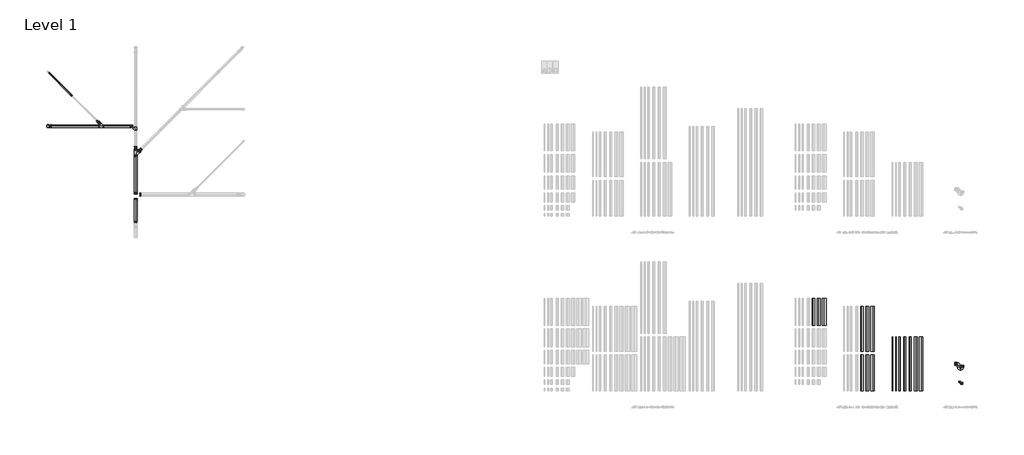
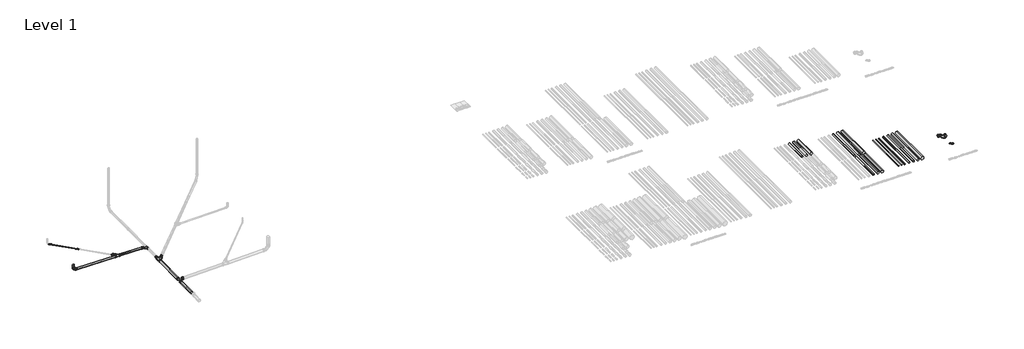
# One storey, part 4 of 13: 54 pipe fittings, 22 pipe segments.
"""IFC4 building model written with IfcOpenShell, lengths in millimetres."""

from ifc_helpers import new_model, si_unit, point, frame, frame_2d, origin, place, context, project, spatial, circle_curve, trimmed, segment, composite_curve, outline, extrude, transform, mapped, element, save
from components import pipe_fitting_1_4404_e5c46f2f, pipe_fitting_1_4301_12527d9e, pipe_fitting_1_4404_370fba09, pipe_fitting_1_4404_a0c9185b, pipe_fitting_1_4404_189c9de8, pipe_fitting_1_4301_4e6f8dee, pipe_fitting_1_4404_a6cf7bca, std_4da191fa, std_1d744fe9, std_806a320d, std_74d0a7f9, std_nested_083b6aa0, std_nested_cbfc2923, std_nested_25d1e1bf, std_nested_0749ac55, std_nested_beb749c0, std_nested_fe5946f3, std_nested_7f6e179d, std_nested_072c2150, std_nested_70f44cd0, std_nested_4988e8d9, std_nested_4f3602ba, std_nested_0eafc151, std_nested_af07ce19, std_nested_c6c84c1b, std_nested_b7669297, std_nested_4a7fe435, std_nested_902816f2

model = new_model("IFC4")

# Units and contexts
model_context = context("Model", 3, world=origin())
ifc_project = project(units=[si_unit("LENGTHUNIT", "METRE", prefix="MILLI")], contexts=[model_context])

# Site, building, storey
site = spatial("IfcSite", under=ifc_project)
building = spatial("IfcBuilding", under=site)
storey = spatial("IfcBuildingStorey", under=building, Name="Level 1", Elevation=0.0)

# Pipe fittings
placement = place(None, origin())
pipe_fitting_1_4404_shape = pipe_fitting_1_4404_e5c46f2f(model_context)
element("IfcPipeFitting", 1, ObjectType="PIF_ST_UN_ACO pipe double bend_ACO : 1.4404", at=placement, inside=storey, context=model_context, shape_type="MappedRepresentation", body=[
    mapped(pipe_fitting_1_4404_shape, transform((-29368.5517039, 4998.4437608, 143.0504722), x_axis=(0.0, 0.0, -1.0), y_axis=(1.0, 0.0, 0.0), z_axis=(0.0, -1.0, 0.0))),
])
pipe_fitting_1_4301_shape = pipe_fitting_1_4301_12527d9e(model_context)
element("IfcPipeFitting", 2, ObjectType="PIF_ST_UN_ACO pipe p-trap_ACO : 1.4404", at=placement, inside=storey, context=model_context, shape_type="MappedRepresentation", body=[
    mapped(pipe_fitting_1_4301_shape, transform((21621.7461061, -9269.2114353, 0.0), x_axis=(1.0, 0.0, 0.0), y_axis=(0.0, 1.0, 0.0), z_axis=(0.0, 0.0, 1.0))),
])
pipe_fitting_1_4404_2_shape = pipe_fitting_1_4404_370fba09(model_context)
element("IfcPipeFitting", 3, ObjectType="PIF_ST_UN_ACO pipe multibranch_ACO : 1.4404", at=placement, inside=storey, context=model_context, shape_type="MappedRepresentation", body=[
    mapped(pipe_fitting_1_4404_2_shape, transform((-26321.0506477, 4998.4437608, 97.3379564), x_axis=(-0.9998875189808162, 0.0, 0.014998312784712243), y_axis=(9.3175288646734e-05, 0.999980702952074, 0.006211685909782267), z_axis=(-0.014998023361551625, 0.0062123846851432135, -0.9998682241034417))),
])
element("IfcPipeFitting", 4, ObjectType="PIF_ST_UN_ACO pipe multibranch_ACO : 1.4404", at=placement, inside=storey, context=model_context, shape_type="MappedRepresentation", body=[
    mapped(pipe_fitting_1_4404_2_shape, transform((-24468.5517039, 4800.4745753, 67.8094351), x_axis=(0.0, 0.9999613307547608, 0.008794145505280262), y_axis=(-0.9998875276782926, -0.00013189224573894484, 0.014997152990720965), z_axis=(0.014997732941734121, -0.008793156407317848, 0.999848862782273))),
])
pipe_fitting_1_4404_3_shape = pipe_fitting_1_4404_a0c9185b(model_context)
element("IfcPipeFitting", 5, ObjectType="PIF_ST_UN_ACO pipe multibranch_ACO : 1.4404", at=placement, inside=storey, context=model_context, shape_type="MappedRepresentation", body=[
    mapped(pipe_fitting_1_4404_3_shape, transform((-24468.5517039, 3423.4023035, 55.6987928), x_axis=(0.0, 0.9999613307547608, 0.008794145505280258), y_axis=(0.9999229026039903, -0.000109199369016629, 0.012416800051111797), z_axis=(0.01241728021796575, 0.008793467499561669, -0.999884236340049))),
])
pipe_fitting_1_4404_4_shape = pipe_fitting_1_4404_189c9de8(model_context)
element("IfcPipeFitting", 6, ObjectType="PIF_ST_UN_ACO pipe multireducer_ACO : 1.4404", at=placement, inside=storey, context=model_context, shape_type="MappedRepresentation", body=[
    mapped(pipe_fitting_1_4404_4_shape, transform((-24468.5517039, 3716.3909734, 58.2754775), x_axis=(0.0, 0.9999613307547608, 0.008794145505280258), y_axis=(-0.9999229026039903, 0.00010919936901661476, -0.01241680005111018), z_axis=(-0.012417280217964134, -0.008793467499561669, 0.999884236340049))),
])
pipe_fitting_1_4301_2_shape = pipe_fitting_1_4301_4e6f8dee(model_context)
element("IfcPipeFitting", 7, ObjectType="PIF_ST_UN_ACO pipe p-trap_ACO : 1.4404", at=placement, inside=storey, context=model_context, shape_type="MappedRepresentation", body=[
    mapped(pipe_fitting_1_4301_2_shape, transform((21621.7461061, -8269.2114353, 0.0), x_axis=(1.0, 0.0, 0.0), y_axis=(0.0, 1.0, 0.0), z_axis=(0.0, 0.0, 1.0))),
])
pipe_fitting_1_4404_5_shape = pipe_fitting_1_4404_a6cf7bca(model_context)
element("IfcPipeFitting", 8, ObjectType="PIF_ST_UN_ACO pipe straight coupling_ACO : 1.4404", at=placement, inside=storey, context=model_context, shape_type="MappedRepresentation", body=[
    mapped(pipe_fitting_1_4404_5_shape, transform((-28056.0900887, 6733.2635608, 109.1390415), x_axis=(0.7070272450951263, -0.7070272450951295, -0.01499831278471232), y_axis=(0.014998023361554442, -0.006212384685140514, 0.9998682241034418), z_axis=(-0.7070272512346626, -0.7071590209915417, 0.0062116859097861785))),
])
std_shape = std_4da191fa(model_context)
element("IfcPipeFitting", 9, ObjectType="ZZZ_do not use_PIF_ST_UN_ACO pipe increaser coupling_ACO : std", at=placement, inside=storey, context=model_context, shape_type="MappedRepresentation", body=[
    mapped(std_shape, transform((-26485.4344822, 5162.8275953, 100.8250641), x_axis=(-0.7070272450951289, 0.7070272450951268, 0.01499831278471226), y_axis=(0.7070272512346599, 0.7071590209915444, -0.0062116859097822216), z_axis=(-0.014998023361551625, 0.0062123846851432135, -0.9998682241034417))),
])
std_2_shape = std_1d744fe9(model_context)
element("IfcPipeFitting", 10, ObjectType="ZZZ_do not use_PIF_ST_UN_ACO pipe increaser coupling_ACO : std", at=placement, inside=storey, context=model_context, shape_type="MappedRepresentation", body=[
    mapped(std_2_shape, transform((-26568.5101835, 5245.9032966, 102.5873658), x_axis=(-0.7070272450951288, 0.7070272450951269, 0.01499831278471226), y_axis=(0.70702725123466, 0.7071590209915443, -0.006211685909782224), z_axis=(-0.014998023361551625, 0.0062123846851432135, -0.9998682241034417))),
])
std_3_shape = std_806a320d(model_context)
element("IfcPipeFitting", 11, ObjectType="ZZZ_do not use_PIF_ST_UN_ACO pipe increaser coupling_ACO : std", at=placement, inside=storey, context=model_context, shape_type="MappedRepresentation", body=[
    mapped(std_3_shape, transform((-24255.0294758, 3636.9245315, 60.2282833), x_axis=(0.7070272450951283, 0.7070272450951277, 0.014998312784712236), y_axis=(0.7070772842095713, -0.7071316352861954, 0.0025621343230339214), z_axis=(0.012417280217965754, 0.00879346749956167, -0.9998842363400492))),
])
std_4_shape = std_74d0a7f9(model_context)
element("IfcPipeFitting", 12, ObjectType="ZZZ_do not use_PIF_ST_UN_ACO pipe increaser coupling_ACO : std", at=placement, inside=storey, context=model_context, shape_type="MappedRepresentation", body=[
    mapped(std_4_shape, transform((-24468.5517039, 3716.3909734, 58.2754775), x_axis=(0.0, 0.9999613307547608, 0.008794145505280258), y_axis=(-0.9999229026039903, 0.00010919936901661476, -0.01241680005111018), z_axis=(-0.012417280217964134, -0.008793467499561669, 0.999884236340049))),
])
std_nested_shape = std_nested_083b6aa0(model_context)
element("IfcPipeFitting", 13, ObjectType="ZZZ_do not use_PIF_ST_UN_ACO pipe bend_ACO : std (nested)", at=placement, inside=storey, context=model_context, shape_type="MappedRepresentation", body=[
    mapped(std_nested_shape, transform((-29256.2662569, 4998.4437608, 141.3661905), x_axis=(0.7017840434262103, 0.0, -0.7123897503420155), y_axis=(0.7123897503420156, 0.0, 0.7017840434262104), z_axis=(0.0, -1.0000000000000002, 0.0))),
])
element("IfcPipeFitting", 14, ObjectType="ZZZ_do not use_PIF_ST_UN_ACO pipe bend_ACO : std (nested)", at=placement, inside=storey, context=model_context, shape_type="MappedRepresentation", body=[
    mapped(std_nested_shape, transform((-29368.5517039, 4998.4437608, 255.3485506), x_axis=(0.0, 0.0, -1.0), y_axis=(1.0, 0.0, 0.0), z_axis=(0.0, -1.0, 0.0))),
])
std_nested_2_shape = std_nested_cbfc2923(model_context)
element("IfcPipeFitting", 15, ObjectType="ZZZ_do not use_PIF_ST_UN_ACO pipe bend_ACO : std (nested)", at=placement, inside=storey, context=model_context, shape_type="MappedRepresentation", body=[
    mapped(std_nested_2_shape, transform((-24666.5062781, 4998.4437625, 72.5197908), x_axis=(-0.7069806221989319, 0.7070328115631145, 0.0168226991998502), y_axis=(-0.7070738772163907, -0.7071260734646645, 0.0043872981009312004), z_axis=(0.014997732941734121, -0.008793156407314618, 0.999848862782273))),
])
std_nested_3_shape = std_nested_25d1e1bf(model_context)
element("IfcPipeFitting", 16, ObjectType="ZZZ_do not use_PIF_ST_UN_ACO pipe branch_ACO : std (nested)", at=placement, inside=storey, context=model_context, shape_type="MappedRepresentation", body=[
    mapped(std_nested_3_shape, transform((-26321.0506477, 4998.4437608, 97.3379564), x_axis=(-0.9998875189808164, 0.0, 0.014998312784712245), y_axis=(9.3175288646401e-05, 0.9999807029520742, 0.006211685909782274), z_axis=(-0.014998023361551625, 0.0062123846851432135, -0.9998682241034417))),
])
std_nested_4_shape = std_nested_0749ac55(model_context)
element("IfcPipeFitting", 17, ObjectType="ZZZ_do not use_PIF_ST_UN_ACO pipe branch_ACO : std (nested)", at=placement, inside=storey, context=model_context, shape_type="MappedRepresentation", body=[
    mapped(std_nested_4_shape, transform((-24468.5517039, 4800.4745753, 67.8094351), x_axis=(0.0, 0.999961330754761, 0.008794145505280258), y_axis=(-0.9998875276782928, -0.0001318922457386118, 0.014997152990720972), z_axis=(0.014997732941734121, -0.008793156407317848, 0.999848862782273))),
])
std_nested_5_shape = std_nested_beb749c0(model_context)
element("IfcPipeFitting", 18, ObjectType="ZZZ_do not use_PIF_ST_UN_ACO pipe branch_ACO : std (nested)", at=placement, inside=storey, context=model_context, shape_type="MappedRepresentation", body=[
    mapped(std_nested_5_shape, transform((-24468.5517039, 3423.4023035, 55.6987928), x_axis=(0.0, 0.999961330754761, 0.008794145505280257), y_axis=(0.9999229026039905, -0.00010919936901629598, 0.012416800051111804), z_axis=(0.01241728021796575, 0.008793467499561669, -0.999884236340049))),
])
std_nested_6_shape = std_nested_fe5946f3(model_context)
element("IfcPipeFitting", 19, ObjectType="ZZZ_do not use_PIF_ST_UN_ACO pipe multireducer_ACO : std (nested)", at=placement, inside=storey, context=model_context, shape_type="MappedRepresentation", body=[
    mapped(std_nested_6_shape, transform((-26524.3209807, 5201.7140937, 101.6499713), x_axis=(-0.7070272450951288, 0.7070272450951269, 0.01499831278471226), y_axis=(0.70702725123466, 0.7071590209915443, -0.006211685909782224), z_axis=(-0.014998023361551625, 0.0062123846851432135, -0.9998682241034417))),
])
element("IfcPipeFitting", 20, ObjectType="ZZZ_do not use_PIF_ST_UN_ACO pipe multireducer_ACO : std (nested)", at=placement, inside=storey, context=model_context, shape_type="MappedRepresentation", body=[
    mapped(pipe_fitting_1_4404_4_shape, transform((-24255.0294758, 3636.9245315, 60.2282833), x_axis=(0.7070272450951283, 0.7070272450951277, 0.014998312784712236), y_axis=(0.7070772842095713, -0.7071316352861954, 0.0025621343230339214), z_axis=(0.012417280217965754, 0.00879346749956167, -0.9998842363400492))),
])
std_nested_7_shape = std_nested_7f6e179d(model_context)
element("IfcPipeFitting", 21, ObjectType="ZZZ_do not use_PIF_ST_UN_ACO pipe socket_ACO : std (nested)", at=placement, inside=storey, context=model_context, shape_type="MappedRepresentation", body=[
    mapped(std_nested_7_shape, transform((21434.7461061, -9269.2114353, 0.0), x_axis=(-1.0, 0.0, 0.0), y_axis=(0.0, 1.0, 0.0), z_axis=(0.0, 0.0, -1.0))),
])
element("IfcPipeFitting", 22, ObjectType="ZZZ_do not use_PIF_ST_UN_ACO pipe socket_ACO : std (nested)", at=placement, inside=storey, context=model_context, shape_type="MappedRepresentation", body=[
    mapped(std_nested_7_shape, transform((-29282.1495171, 7959.3229892, 135.1476896), x_axis=(0.7070272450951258, -0.70702724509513, -0.014998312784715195), y_axis=(0.010605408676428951, -0.010605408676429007, 0.9998875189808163), z_axis=(-0.7071067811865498, -0.7071067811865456, 0.0))),
])
std_nested_8_shape = std_nested_072c2150(model_context)
element("IfcPipeFitting", 23, ObjectType="ZZZ_do not use_PIF_ST_UN_ACO pipe socket_ACO : std (nested)", at=placement, inside=storey, context=model_context, shape_type="MappedRepresentation", body=[
    mapped(std_nested_8_shape, transform((21621.7461061, -9350.2114353, 0.0), x_axis=(0.0, 1.0, 0.0), y_axis=(1.0, 0.0, 0.0), z_axis=(0.0, 0.0, -1.0))),
])
element("IfcPipeFitting", 24, ObjectType="ZZZ_do not use_PIF_ST_UN_ACO pipe socket_ACO : std (nested)", at=placement, inside=storey, context=model_context, shape_type="MappedRepresentation", body=[
    mapped(std_nested_8_shape, transform((-26607.7716326, 5284.9451047, 78.4155674), x_axis=(-0.7070272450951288, 0.7070272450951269, 0.01499831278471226), y_axis=(0.70702725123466, 0.7071590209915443, -0.006211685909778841), z_axis=(-0.014998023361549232, 0.0062123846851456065, -0.9998682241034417))),
])
element("IfcPipeFitting", 25, ObjectType="ZZZ_do not use_PIF_ST_UN_ACO pipe socket_ACO : std (nested)", at=placement, inside=storey, context=model_context, shape_type="MappedRepresentation", body=[
    mapped(std_nested_8_shape, transform((-28051.4237088, 6728.5971809, 109.0400526), x_axis=(0.7070272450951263, -0.7070272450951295, -0.01499831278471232), y_axis=(-0.014998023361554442, 0.006212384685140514, -0.9998682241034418), z_axis=(0.7070272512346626, 0.7071590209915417, -0.0062116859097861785))),
])
element("IfcPipeFitting", 26, ObjectType="ZZZ_do not use_PIF_ST_UN_ACO pipe socket_ACO : std (nested)", at=placement, inside=storey, context=model_context, shape_type="MappedRepresentation", body=[
    mapped(std_nested_8_shape, transform((-28060.7564685, 6737.9299406, 109.2380304), x_axis=(-0.7070272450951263, 0.7070272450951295, 0.01499831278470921), y_axis=(0.014998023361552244, -0.006212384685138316, 0.9998682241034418), z_axis=(0.7070272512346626, 0.7071590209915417, -0.0062116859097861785))),
])
std_nested_9_shape = std_nested_70f44cd0(model_context)
element("IfcPipeFitting", 27, ObjectType="ZZZ_do not use_PIF_ST_UN_ACO pipe socket_ACO : std (nested)", at=placement, inside=storey, context=model_context, shape_type="MappedRepresentation", body=[
    mapped(std_nested_9_shape, transform((21217.7461061, -8269.2114353, 0.0), x_axis=(-1.0, 0.0, 0.0), y_axis=(0.0, 1.0, 0.0), z_axis=(0.0, 0.0, -1.0))),
])
std_nested_10_shape = std_nested_4988e8d9(model_context)
element("IfcPipeFitting", 28, ObjectType="ZZZ_do not use_PIF_ST_UN_ACO pipe socket_ACO : std (nested)", at=placement, inside=storey, context=model_context, shape_type="MappedRepresentation", body=[
    mapped(std_nested_10_shape, transform((21621.7461061, -8426.2114353, 0.0), x_axis=(0.0, 1.0, 0.0), y_axis=(1.0, 0.0, 0.0), z_axis=(0.0, 0.0, -1.0))),
])
std_nested_11_shape = std_nested_4f3602ba(model_context)
element("IfcPipeFitting", 29, ObjectType="ZZZ_do not use_PIF_ST_UN_ACO pipe socket_ACO : std (nested)", at=placement, inside=storey, context=model_context, shape_type="MappedRepresentation", body=[
    mapped(std_nested_11_shape, transform((-29146.2786298, 4998.4437608, 139.7163761), x_axis=(0.9998875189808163, 0.0, -0.014998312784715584), y_axis=(0.01499831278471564, 0.0, 0.9998875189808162), z_axis=(0.0, -1.0000000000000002, 0.0))),
])
element("IfcPipeFitting", 30, ObjectType="ZZZ_do not use_PIF_ST_UN_ACO pipe socket_ACO : std (nested)", at=placement, inside=storey, context=model_context, shape_type="MappedRepresentation", body=[
    mapped(std_nested_11_shape, transform((-26218.0622332, 4998.4437608, 95.7931302), x_axis=(0.9998875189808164, 0.0, -0.014998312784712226), y_axis=(-9.317528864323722e-05, -0.9999807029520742, -0.006211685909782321), z_axis=(-0.014998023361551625, 0.0062123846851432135, -0.9998682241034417))),
])
std_nested_12_shape = std_nested_0eafc151(model_context)
element("IfcPipeFitting", 31, ObjectType="ZZZ_do not use_PIF_ST_UN_ACO pipe socket_ACO : std (nested)", at=placement, inside=storey, context=model_context, shape_type="MappedRepresentation", body=[
    mapped(std_nested_12_shape, transform((-29291.3554591, 4998.4437608, 176.985678), x_axis=(-0.7017840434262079, 0.0, 0.7123897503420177), y_axis=(-0.7123897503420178, 0.0, -0.701784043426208), z_axis=(0.0, -1.0000000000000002, 0.0))),
])
element("IfcPipeFitting", 32, ObjectType="ZZZ_do not use_PIF_ST_UN_ACO pipe socket_ACO : std (nested)", at=placement, inside=storey, context=model_context, shape_type="MappedRepresentation", body=[
    mapped(std_nested_12_shape, transform((-29368.5517039, 4998.4437608, 305.3485506), x_axis=(0.0, 0.0, 1.0), y_axis=(-1.0, 0.0, 0.0), z_axis=(0.0, -1.0, 0.0))),
])
std_nested_13_shape = std_nested_af07ce19(model_context)
element("IfcPipeFitting", 33, ObjectType="ZZZ_do not use_PIF_ST_UN_ACO pipe socket_ACO : std (nested)", at=placement, inside=storey, context=model_context, shape_type="MappedRepresentation", body=[
    mapped(std_nested_13_shape, transform((-26529.623685, 5207.0167981, 101.7624586), x_axis=(-0.7070272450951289, 0.7070272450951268, 0.01499831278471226), y_axis=(0.7070272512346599, 0.7071590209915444, -0.006211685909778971), z_axis=(-0.014998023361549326, 0.006212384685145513, -0.9998682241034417))),
])
element("IfcPipeFitting", 34, ObjectType="ZZZ_do not use_PIF_ST_UN_ACO pipe socket_ACO : std (nested)", at=placement, inside=storey, context=model_context, shape_type="MappedRepresentation", body=[
    mapped(std_nested_12_shape, transform((-26491.0315259, 4998.4437608, 99.8876695), x_axis=(-0.9998875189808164, 0.0, 0.014998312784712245), y_axis=(9.3175288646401e-05, 0.9999807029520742, 0.006211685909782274), z_axis=(-0.014998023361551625, 0.0062123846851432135, -0.9998682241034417))),
])
element("IfcPipeFitting", 35, ObjectType="ZZZ_do not use_PIF_ST_UN_ACO pipe socket_ACO : std (nested)", at=placement, inside=storey, context=model_context, shape_type="MappedRepresentation", body=[
    mapped(std_nested_12_shape, transform((-26441.2452794, 5118.6383924, 99.8876695), x_axis=(-0.7070272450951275, 0.7070272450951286, 0.014998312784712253), y_axis=(0.7070272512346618, 0.707159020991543, -0.006211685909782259), z_axis=(-0.014998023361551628, 0.006212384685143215, -0.9998682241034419))),
])
element("IfcPipeFitting", 36, ObjectType="ZZZ_do not use_PIF_ST_UN_ACO pipe socket_ACO : std (nested)", at=placement, inside=storey, context=model_context, shape_type="MappedRepresentation", body=[
    mapped(std_nested_12_shape, transform((-24716.500654, 4998.4437625, 73.2697065), x_axis=(-0.9998875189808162, 0.0, 0.014998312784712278), y_axis=(-0.000131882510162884, -0.9999613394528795, -0.00879216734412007), z_axis=(0.014997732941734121, -0.008793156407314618, 0.999848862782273))),
])
element("IfcPipeFitting", 37, ObjectType="ZZZ_do not use_PIF_ST_UN_ACO pipe socket_ACO : std (nested)", at=placement, inside=storey, context=model_context, shape_type="MappedRepresentation", body=[
    mapped(std_nested_12_shape, transform((-24468.5517039, 3796.3878799, 58.9790091), x_axis=(0.0, 0.9999613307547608, 0.008794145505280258), y_axis=(-0.9999229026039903, 0.00010919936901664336, -0.012416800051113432), z_axis=(-0.012417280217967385, -0.008793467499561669, 0.999884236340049))),
])
element("IfcPipeFitting", 38, ObjectType="ZZZ_do not use_PIF_ST_UN_ACO pipe socket_ACO : std (nested)", at=placement, inside=storey, context=model_context, shape_type="MappedRepresentation", body=[
    mapped(std_nested_10_shape, transform((-24468.5517039, 1229.5443159, 36.4049404), x_axis=(0.0, 0.9999613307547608, 0.00879414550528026), y_axis=(0.9998875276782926, -0.0001318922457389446, 0.014997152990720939), z_axis=(0.014997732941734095, 0.008793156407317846, -0.999848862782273))),
])
element("IfcPipeFitting", 39, ObjectType="ZZZ_do not use_PIF_ST_UN_ACO pipe socket_ACO : std (nested)", at=placement, inside=storey, context=model_context, shape_type="MappedRepresentation", body=[
    mapped(std_nested_10_shape, transform((-24245.0768434, 1191.2457969, 39.4202475), x_axis=(0.9998875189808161, 0.0, 0.014998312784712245), y_axis=(0.00013188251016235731, -0.9999613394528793, -0.008792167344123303), z_axis=(0.014997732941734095, 0.008793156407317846, -0.999848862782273))),
])
element("IfcPipeFitting", 40, ObjectType="ZZZ_do not use_PIF_ST_UN_ACO pipe socket_ACO : std (nested)", at=placement, inside=storey, context=model_context, shape_type="MappedRepresentation", body=[
    mapped(std_nested_9_shape, transform((-24468.5517039, 897.557154, 33.4852841), x_axis=(0.0, -0.9999613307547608, -0.008794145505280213), y_axis=(-0.9998875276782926, 0.0001318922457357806, -0.014997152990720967), z_axis=(0.014997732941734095, 0.008793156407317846, -0.999848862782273))),
])
element("IfcPipeFitting", 41, ObjectType="ZZZ_do not use_PIF_ST_UN_ACO pipe socket_ACO : std (nested)", at=placement, inside=storey, context=model_context, shape_type="MappedRepresentation", body=[
    mapped(std_nested_10_shape, transform((-24468.5517039, 3636.3940669, 57.5719458), x_axis=(0.0, 0.999961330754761, 0.008794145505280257), y_axis=(0.9999229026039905, -0.00010919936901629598, 0.012416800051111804), z_axis=(0.01241728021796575, 0.008793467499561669, -0.999884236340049))),
])
element("IfcPipeFitting", 42, ObjectType="ZZZ_do not use_PIF_ST_UN_ACO pipe socket_ACO : std (nested)", at=placement, inside=storey, context=model_context, shape_type="MappedRepresentation", body=[
    mapped(std_nested_10_shape, transform((-24311.5916555, 3580.3623519, 59.0284183), x_axis=(0.7070272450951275, 0.7070272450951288, 0.014998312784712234), y_axis=(0.7070772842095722, -0.7071316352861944, 0.0025621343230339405), z_axis=(0.01241728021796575, 0.008793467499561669, -0.999884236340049))),
])
element("IfcPipeFitting", 43, ObjectType="ZZZ_do not use_PIF_ST_UN_ACO pipe socket_ACO : std (nested)", at=placement, inside=storey, context=model_context, shape_type="MappedRepresentation", body=[
    mapped(std_nested_9_shape, transform((-24468.5517039, 3304.4069051, 54.6522895), x_axis=(0.0, -0.999961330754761, -0.008794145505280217), y_axis=(-0.9999229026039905, 0.00010919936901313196, -0.012416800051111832), z_axis=(0.01241728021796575, 0.008793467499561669, -0.999884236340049))),
])
element("IfcPipeFitting", 44, ObjectType="ZZZ_do not use_PIF_ST_UN_ACO pipe socket_ACO : std (nested)", at=placement, inside=storey, context=model_context, shape_type="MappedRepresentation", body=[
    mapped(std_nested_13_shape, transform((-24198.7404764, 3693.2932548, 83.4256015), x_axis=(0.7070272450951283, 0.7070272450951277, 0.014998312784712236), y_axis=(0.7070772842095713, -0.7071316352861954, 0.002562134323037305), z_axis=(0.012417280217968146, 0.008793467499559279, -0.9998842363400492))),
])
std_nested_14_shape = std_nested_c6c84c1b(model_context)
element("IfcPipeFitting", 45, ObjectType="ZZZ_do not use_PIF_ST_UN_ACO pipe socket clamp_ACO : std (nested)", at=placement, inside=storey, context=model_context, shape_type="MappedRepresentation", body=[
    mapped(std_nested_14_shape, transform((-24169.0453321, 3722.9883991, 84.0555306), x_axis=(0.7070272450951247, 0.707027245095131, 0.014998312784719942), y_axis=(0.012417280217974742, 0.008793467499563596, -0.9998842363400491), z_axis=(-0.7070772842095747, 0.7071316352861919, -0.0025621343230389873))),
])
std_nested_15_shape = std_nested_b7669297(model_context)
element("IfcPipeFitting", 46, ObjectType="ZZZ_do not use_PIF_ST_UN_ACO pipe socket clamp_ACO : std (nested)", at=placement, inside=storey, context=model_context, shape_type="MappedRepresentation", body=[
    mapped(std_nested_15_shape, transform((-24468.5517039, 3689.3920175, 58.0380355), x_axis=(0.0, 0.9999613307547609, 0.008794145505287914), y_axis=(0.01241728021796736, 0.008793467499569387, -0.9998842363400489), z_axis=(-0.9999229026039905, 0.00010919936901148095, -0.012416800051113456))),
])
element("IfcPipeFitting", 47, ObjectType="ZZZ_do not use_PIF_ST_UN_ACO pipe socket clamp_ACO : std (nested)", at=placement, inside=storey, context=model_context, shape_type="MappedRepresentation", body=[
    mapped(std_nested_15_shape, transform((-24274.1192115, 3617.8347959, 59.8233288), x_axis=(0.7070272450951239, 0.7070272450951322, 0.01499831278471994), y_axis=(0.012417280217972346, 0.008793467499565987, -0.9998842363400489), z_axis=(-0.7070772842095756, 0.7071316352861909, -0.0025621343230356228))),
])
element("IfcPipeFitting", 48, ObjectType="ZZZ_do not use_PIF_ST_UN_ACO pipe socket clamp_ACO : std (nested)", at=placement, inside=storey, context=model_context, shape_type="MappedRepresentation", body=[
    mapped(std_nested_15_shape, transform((-24468.5517039, 3357.4048557, 55.1183792), x_axis=(0.0, 0.9999613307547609, 0.008794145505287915), y_axis=(0.01241728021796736, 0.008793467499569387, -0.9998842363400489), z_axis=(-0.9999229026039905, 0.0001091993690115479, -0.012416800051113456))),
])
std_nested_16_shape = std_nested_4a7fe435(model_context)
element("IfcPipeFitting", 49, ObjectType="ZZZ_do not use_PIF_ST_UN_ACO pipe socket clamp two parts_ACO : std (nested)", at=placement, inside=storey, context=model_context, shape_type="MappedRepresentation", body=[
    mapped(std_nested_16_shape, transform((-29193.2733432, 4998.4437608, 140.4212968), x_axis=(-0.9998875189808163, 0.0, 0.014998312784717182), y_axis=(0.0, -1.0000000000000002, 0.0), z_axis=(0.014998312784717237, 0.0, 0.9998875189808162))),
])
element("IfcPipeFitting", 50, ObjectType="ZZZ_do not use_PIF_ST_UN_ACO pipe socket clamp two parts_ACO : std (nested)", at=placement, inside=storey, context=model_context, shape_type="MappedRepresentation", body=[
    mapped(std_nested_16_shape, transform((-29324.3393091, 4998.4437608, 210.4679963), x_axis=(-0.7017840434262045, 0.0, 0.7123897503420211), y_axis=(0.0, -1.0000000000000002, 0.0), z_axis=(0.7123897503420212, 0.0, 0.7017840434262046))),
])
element("IfcPipeFitting", 51, ObjectType="ZZZ_do not use_PIF_ST_UN_ACO pipe socket clamp two parts_ACO : std (nested)", at=placement, inside=storey, context=model_context, shape_type="MappedRepresentation", body=[
    mapped(std_nested_16_shape, transform((-29368.5517039, 4998.4437608, 352.3485506), x_axis=(0.0, 0.0, 1.0), y_axis=(0.0, -1.0, 0.0), z_axis=(1.0, 0.0, 0.0))),
])
element("IfcPipeFitting", 52, ObjectType="ZZZ_do not use_PIF_ST_UN_ACO pipe socket clamp two parts_ACO : std (nested)", at=placement, inside=storey, context=model_context, shape_type="MappedRepresentation", body=[
    mapped(std_nested_16_shape, transform((-26265.0569466, 4998.4437608, 96.4980509), x_axis=(-0.9998875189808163, 0.0, 0.014998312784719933), y_axis=(-0.014998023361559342, 0.006212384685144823, -0.9998682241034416), z_axis=(-9.317528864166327e-05, -0.9999807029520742, -0.006211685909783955))),
])
std_nested_17_shape = std_nested_902816f2(model_context)
element("IfcPipeFitting", 53, ObjectType="ZZZ_do not use_PIF_ST_UN_ACO pipe socket clamp two parts_ACO : std (nested)", at=placement, inside=storey, context=model_context, shape_type="MappedRepresentation", body=[
    mapped(std_nested_17_shape, transform((-24468.5517039, 1282.5422664, 36.8710301), x_axis=(0.0, 0.9999613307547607, 0.008794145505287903), y_axis=(0.014997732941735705, 0.008793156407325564, -0.9998488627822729), z_axis=(-0.9998875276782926, 0.00013189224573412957, -0.01499715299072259))),
])
element("IfcPipeFitting", 54, ObjectType="ZZZ_do not use_PIF_ST_UN_ACO pipe socket clamp two parts_ACO : std (nested)", at=placement, inside=storey, context=model_context, shape_type="MappedRepresentation", body=[
    mapped(std_nested_17_shape, transform((-24468.5517039, 950.5551046, 33.9513738), x_axis=(0.0, 0.9999613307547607, 0.008794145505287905), y_axis=(0.014997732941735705, 0.008793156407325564, -0.9998488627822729), z_axis=(-0.9998875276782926, 0.00013189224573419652, -0.01499715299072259))),
])

# Pipe segments
element("IfcPipeSegment", 55, ObjectType="ACO pipe 1.4404 OD (complex)", at=placement, inside=storey, context=model_context, shape_type="SweptSolid", body=[
    extrude(outline(composite_curve([segment(trimmed(circle_curve(frame_2d((0.0, 13321.7461061)), 62.5), [point((0.0, 13384.2461061))], [point((62.5, 13321.7461061))], False, "CARTESIAN"), True, "CONTINUOUS"), segment(trimmed(circle_curve(frame_2d((0.0, 13321.7461061)), 62.5), [point((62.5, 13321.7461061))], [point((0.0, 13259.2461061))], False, "CARTESIAN"), True, "CONTINUOUS"), segment(trimmed(circle_curve(frame_2d((0.0, 13321.7461061)), 62.5), [point((0.0, 13259.2461061))], [point((-62.5, 13321.7461061))], False, "CARTESIAN"), True, "CONTINUOUS"), segment(trimmed(circle_curve(frame_2d((0.0, 13321.7461061)), 62.5), [point((-62.5, 13321.7461061))], [point((0.0, 13384.2461061))], False, "CARTESIAN"), True, "CONTINUOUS")], self_intersect=False)), frame((0.0, -6119.2114353, 0.0), z_axis=(0.0, 1.0, 0.0), x_axis=(0.0, 0.0, 1.0)), (0.0, 0.0, 1.0), 1500.0),
])
element("IfcPipeSegment", 56, ObjectType="ACO pipe 1.4404 OD (complex)", at=placement, inside=storey, context=model_context, shape_type="SweptSolid", body=[
    extrude(outline(composite_curve([segment(trimmed(circle_curve(frame_2d((0.0, 13621.7461061)), 80.0), [point((0.0, 13701.7461061))], [point((80.0, 13621.7461061))], False, "CARTESIAN"), True, "CONTINUOUS"), segment(trimmed(circle_curve(frame_2d((0.0, 13621.7461061)), 80.0), [point((80.0, 13621.7461061))], [point((0.0, 13541.7461061))], False, "CARTESIAN"), True, "CONTINUOUS"), segment(trimmed(circle_curve(frame_2d((0.0, 13621.7461061)), 80.0), [point((0.0, 13541.7461061))], [point((-80.0, 13621.7461061))], False, "CARTESIAN"), True, "CONTINUOUS"), segment(trimmed(circle_curve(frame_2d((0.0, 13621.7461061)), 80.0), [point((-80.0, 13621.7461061))], [point((0.0, 13701.7461061))], False, "CARTESIAN"), True, "CONTINUOUS")], self_intersect=False)), frame((0.0, -6119.2114353, 0.0), z_axis=(0.0, 1.0, 0.0), x_axis=(0.0, 0.0, 1.0)), (0.0, 0.0, 1.0), 1500.0),
])
element("IfcPipeSegment", 57, ObjectType="ACO pipe 1.4404 OD (complex)", at=placement, inside=storey, context=model_context, shape_type="SweptSolid", body=[
    extrude(outline(composite_curve([segment(trimmed(circle_curve(frame_2d((0.0, 13921.7461061)), 100.0), [point((0.0, 14021.7461061))], [point((100.0, 13921.7461061))], False, "CARTESIAN"), True, "CONTINUOUS"), segment(trimmed(circle_curve(frame_2d((0.0, 13921.7461061)), 100.0), [point((100.0, 13921.7461061))], [point((0.0, 13821.7461061))], False, "CARTESIAN"), True, "CONTINUOUS"), segment(trimmed(circle_curve(frame_2d((0.0, 13921.7461061)), 100.0), [point((0.0, 13821.7461061))], [point((-100.0, 13921.7461061))], False, "CARTESIAN"), True, "CONTINUOUS"), segment(trimmed(circle_curve(frame_2d((0.0, 13921.7461061)), 100.0), [point((-100.0, 13921.7461061))], [point((0.0, 14021.7461061))], False, "CARTESIAN"), True, "CONTINUOUS")], self_intersect=False)), frame((0.0, -6119.2114353, 0.0), z_axis=(0.0, 1.0, 0.0), x_axis=(0.0, 0.0, 1.0)), (0.0, 0.0, 1.0), 1500.0),
])
element("IfcPipeSegment", 58, ObjectType="ACO pipe 1.4404 OD (complex)", at=placement, inside=storey, context=model_context, shape_type="SweptSolid", body=[
    extrude(outline(composite_curve([segment(trimmed(circle_curve(frame_2d((0.0, 16021.7461061)), 62.5), [point((0.0, 16084.2461061))], [point((62.5, 16021.7461061))], False, "CARTESIAN"), True, "CONTINUOUS"), segment(trimmed(circle_curve(frame_2d((0.0, 16021.7461061)), 62.5), [point((62.5, 16021.7461061))], [point((0.0, 15959.2461061))], False, "CARTESIAN"), True, "CONTINUOUS"), segment(trimmed(circle_curve(frame_2d((0.0, 16021.7461061)), 62.5), [point((0.0, 15959.2461061))], [point((-62.5, 16021.7461061))], False, "CARTESIAN"), True, "CONTINUOUS"), segment(trimmed(circle_curve(frame_2d((0.0, 16021.7461061)), 62.5), [point((-62.5, 16021.7461061))], [point((0.0, 16084.2461061))], False, "CARTESIAN"), True, "CONTINUOUS")], self_intersect=False)), frame((0.0, -9769.2114353, 0.0), z_axis=(0.0, 1.0, 0.0), x_axis=(0.0, 0.0, 1.0)), (0.0, 0.0, 1.0), 2000.0),
])
element("IfcPipeSegment", 59, ObjectType="ACO pipe 1.4404 OD (complex)", at=placement, inside=storey, context=model_context, shape_type="SweptSolid", body=[
    extrude(outline(composite_curve([segment(trimmed(circle_curve(frame_2d((0.0, 16321.7461061)), 80.0), [point((0.0, 16401.7461061))], [point((80.0, 16321.7461061))], False, "CARTESIAN"), True, "CONTINUOUS"), segment(trimmed(circle_curve(frame_2d((0.0, 16321.7461061)), 80.0), [point((80.0, 16321.7461061))], [point((0.0, 16241.7461061))], False, "CARTESIAN"), True, "CONTINUOUS"), segment(trimmed(circle_curve(frame_2d((0.0, 16321.7461061)), 80.0), [point((0.0, 16241.7461061))], [point((-80.0, 16321.7461061))], False, "CARTESIAN"), True, "CONTINUOUS"), segment(trimmed(circle_curve(frame_2d((0.0, 16321.7461061)), 80.0), [point((-80.0, 16321.7461061))], [point((0.0, 16401.7461061))], False, "CARTESIAN"), True, "CONTINUOUS")], self_intersect=False)), frame((0.0, -9769.2114353, 0.0), z_axis=(0.0, 1.0, 0.0), x_axis=(0.0, 0.0, 1.0)), (0.0, 0.0, 1.0), 2000.0),
])
element("IfcPipeSegment", 60, ObjectType="ACO pipe 1.4404 OD (complex)", at=placement, inside=storey, context=model_context, shape_type="SweptSolid", body=[
    extrude(outline(composite_curve([segment(trimmed(circle_curve(frame_2d((0.0, 16621.7461061)), 100.0), [point((0.0, 16721.7461061))], [point((100.0, 16621.7461061))], False, "CARTESIAN"), True, "CONTINUOUS"), segment(trimmed(circle_curve(frame_2d((0.0, 16621.7461061)), 100.0), [point((100.0, 16621.7461061))], [point((0.0, 16521.7461061))], False, "CARTESIAN"), True, "CONTINUOUS"), segment(trimmed(circle_curve(frame_2d((0.0, 16621.7461061)), 100.0), [point((0.0, 16521.7461061))], [point((-100.0, 16621.7461061))], False, "CARTESIAN"), True, "CONTINUOUS"), segment(trimmed(circle_curve(frame_2d((0.0, 16621.7461061)), 100.0), [point((-100.0, 16621.7461061))], [point((0.0, 16721.7461061))], False, "CARTESIAN"), True, "CONTINUOUS")], self_intersect=False)), frame((0.0, -9769.2114353, 0.0), z_axis=(0.0, 1.0, 0.0), x_axis=(0.0, 0.0, 1.0)), (0.0, 0.0, 1.0), 2000.0),
])
element("IfcPipeSegment", 61, ObjectType="ACO pipe 1.4404 OD (complex)", at=placement, inside=storey, context=model_context, shape_type="SweptSolid", body=[
    extrude(outline(composite_curve([segment(trimmed(circle_curve(frame_2d((0.0, 16021.7461061)), 62.5), [point((0.0, 16084.2461061))], [point((62.5, 16021.7461061))], False, "CARTESIAN"), True, "CONTINUOUS"), segment(trimmed(circle_curve(frame_2d((0.0, 16021.7461061)), 62.5), [point((62.5, 16021.7461061))], [point((0.0, 15959.2461061))], False, "CARTESIAN"), True, "CONTINUOUS"), segment(trimmed(circle_curve(frame_2d((0.0, 16021.7461061)), 62.5), [point((0.0, 15959.2461061))], [point((-62.5, 16021.7461061))], False, "CARTESIAN"), True, "CONTINUOUS"), segment(trimmed(circle_curve(frame_2d((0.0, 16021.7461061)), 62.5), [point((-62.5, 16021.7461061))], [point((0.0, 16084.2461061))], False, "CARTESIAN"), True, "CONTINUOUS")], self_intersect=False)), frame((0.0, -7569.2114353, 0.0), z_axis=(0.0, 1.0, 0.0), x_axis=(0.0, 0.0, 1.0)), (0.0, 0.0, 1.0), 2500.0),
])
element("IfcPipeSegment", 62, ObjectType="ACO pipe 1.4404 OD (complex)", at=placement, inside=storey, context=model_context, shape_type="SweptSolid", body=[
    extrude(outline(composite_curve([segment(trimmed(circle_curve(frame_2d((0.0, 16321.7461061)), 80.0), [point((0.0, 16401.7461061))], [point((80.0, 16321.7461061))], False, "CARTESIAN"), True, "CONTINUOUS"), segment(trimmed(circle_curve(frame_2d((0.0, 16321.7461061)), 80.0), [point((80.0, 16321.7461061))], [point((0.0, 16241.7461061))], False, "CARTESIAN"), True, "CONTINUOUS"), segment(trimmed(circle_curve(frame_2d((0.0, 16321.7461061)), 80.0), [point((0.0, 16241.7461061))], [point((-80.0, 16321.7461061))], False, "CARTESIAN"), True, "CONTINUOUS"), segment(trimmed(circle_curve(frame_2d((0.0, 16321.7461061)), 80.0), [point((-80.0, 16321.7461061))], [point((0.0, 16401.7461061))], False, "CARTESIAN"), True, "CONTINUOUS")], self_intersect=False)), frame((0.0, -7569.2114353, 0.0), z_axis=(0.0, 1.0, 0.0), x_axis=(0.0, 0.0, 1.0)), (0.0, 0.0, 1.0), 2500.0),
])
element("IfcPipeSegment", 63, ObjectType="ACO pipe 1.4404 OD (complex)", at=placement, inside=storey, context=model_context, shape_type="SweptSolid", body=[
    extrude(outline(composite_curve([segment(trimmed(circle_curve(frame_2d((0.0, 16621.7461061)), 100.0), [point((0.0, 16721.7461061))], [point((100.0, 16621.7461061))], False, "CARTESIAN"), True, "CONTINUOUS"), segment(trimmed(circle_curve(frame_2d((0.0, 16621.7461061)), 100.0), [point((100.0, 16621.7461061))], [point((0.0, 16521.7461061))], False, "CARTESIAN"), True, "CONTINUOUS"), segment(trimmed(circle_curve(frame_2d((0.0, 16621.7461061)), 100.0), [point((0.0, 16521.7461061))], [point((-100.0, 16621.7461061))], False, "CARTESIAN"), True, "CONTINUOUS"), segment(trimmed(circle_curve(frame_2d((0.0, 16621.7461061)), 100.0), [point((-100.0, 16621.7461061))], [point((0.0, 16721.7461061))], False, "CARTESIAN"), True, "CONTINUOUS")], self_intersect=False)), frame((0.0, -7569.2114353, 0.0), z_axis=(0.0, 1.0, 0.0), x_axis=(0.0, 0.0, 1.0)), (0.0, 0.0, 1.0), 2500.0),
])
element("IfcPipeSegment", 64, ObjectType="ACO pipe 1.4404 OD (complex)", at=placement, inside=storey, context=model_context, shape_type="SweptSolid", body=[
    extrude(outline(composite_curve([segment(trimmed(circle_curve(frame_2d((0.0, 17721.7461061)), 20.0), [point((0.0, 17741.7461061))], [point((20.0, 17721.7461061))], False, "CARTESIAN"), True, "CONTINUOUS"), segment(trimmed(circle_curve(frame_2d((0.0, 17721.7461061)), 20.0), [point((20.0, 17721.7461061))], [point((0.0, 17701.7461061))], False, "CARTESIAN"), True, "CONTINUOUS"), segment(trimmed(circle_curve(frame_2d((0.0, 17721.7461061)), 20.0), [point((0.0, 17701.7461061))], [point((-20.0, 17721.7461061))], False, "CARTESIAN"), True, "CONTINUOUS"), segment(trimmed(circle_curve(frame_2d((0.0, 17721.7461061)), 20.0), [point((-20.0, 17721.7461061))], [point((0.0, 17741.7461061))], False, "CARTESIAN"), True, "CONTINUOUS")], self_intersect=False)), frame((0.0, -9769.2114353, 0.0), z_axis=(0.0, 1.0, 0.0), x_axis=(0.0, 0.0, 1.0)), (0.0, 0.0, 1.0), 3000.0),
])
element("IfcPipeSegment", 65, ObjectType="ACO pipe 1.4404 OD (complex)", at=placement, inside=storey, context=model_context, shape_type="SweptSolid", body=[
    extrude(outline(composite_curve([segment(trimmed(circle_curve(frame_2d((0.0, 17921.7461061)), 25.0), [point((0.0, 17946.7461061))], [point((25.0, 17921.7461061))], False, "CARTESIAN"), True, "CONTINUOUS"), segment(trimmed(circle_curve(frame_2d((0.0, 17921.7461061)), 25.0), [point((25.0, 17921.7461061))], [point((0.0, 17896.7461061))], False, "CARTESIAN"), True, "CONTINUOUS"), segment(trimmed(circle_curve(frame_2d((0.0, 17921.7461061)), 25.0), [point((0.0, 17896.7461061))], [point((-25.0, 17921.7461061))], False, "CARTESIAN"), True, "CONTINUOUS"), segment(trimmed(circle_curve(frame_2d((0.0, 17921.7461061)), 25.0), [point((-25.0, 17921.7461061))], [point((0.0, 17946.7461061))], False, "CARTESIAN"), True, "CONTINUOUS")], self_intersect=False)), frame((0.0, -9769.2114353, 0.0), z_axis=(0.0, 1.0, 0.0), x_axis=(0.0, 0.0, 1.0)), (0.0, 0.0, 1.0), 3000.0),
])
element("IfcPipeSegment", 66, ObjectType="ACO pipe 1.4404 OD (complex)", at=placement, inside=storey, context=model_context, shape_type="SweptSolid", body=[
    extrude(outline(composite_curve([segment(trimmed(circle_curve(frame_2d((0.0, 18121.7461061)), 37.5), [point((0.0, 18159.2461061))], [point((37.5, 18121.7461061))], False, "CARTESIAN"), True, "CONTINUOUS"), segment(trimmed(circle_curve(frame_2d((0.0, 18121.7461061)), 37.5), [point((37.5, 18121.7461061))], [point((0.0, 18084.2461061))], False, "CARTESIAN"), True, "CONTINUOUS"), segment(trimmed(circle_curve(frame_2d((0.0, 18121.7461061)), 37.5), [point((0.0, 18084.2461061))], [point((-37.5, 18121.7461061))], False, "CARTESIAN"), True, "CONTINUOUS"), segment(trimmed(circle_curve(frame_2d((0.0, 18121.7461061)), 37.5), [point((-37.5, 18121.7461061))], [point((0.0, 18159.2461061))], False, "CARTESIAN"), True, "CONTINUOUS")], self_intersect=False)), frame((0.0, -9769.2114353, 0.0), z_axis=(0.0, 1.0, 0.0), x_axis=(0.0, 0.0, 1.0)), (0.0, 0.0, 1.0), 3000.0),
])
element("IfcPipeSegment", 67, ObjectType="ACO pipe 1.4404 OD (complex)", at=placement, inside=storey, context=model_context, shape_type="SweptSolid", body=[
    extrude(outline(composite_curve([segment(trimmed(circle_curve(frame_2d((0.0, 18421.7461061)), 55.0), [point((0.0, 18476.7461061))], [point((55.0, 18421.7461061))], False, "CARTESIAN"), True, "CONTINUOUS"), segment(trimmed(circle_curve(frame_2d((0.0, 18421.7461061)), 55.0), [point((55.0, 18421.7461061))], [point((0.0, 18366.7461061))], False, "CARTESIAN"), True, "CONTINUOUS"), segment(trimmed(circle_curve(frame_2d((0.0, 18421.7461061)), 55.0), [point((0.0, 18366.7461061))], [point((-55.0, 18421.7461061))], False, "CARTESIAN"), True, "CONTINUOUS"), segment(trimmed(circle_curve(frame_2d((0.0, 18421.7461061)), 55.0), [point((-55.0, 18421.7461061))], [point((0.0, 18476.7461061))], False, "CARTESIAN"), True, "CONTINUOUS")], self_intersect=False)), frame((0.0, -9769.2114353, 0.0), z_axis=(0.0, 1.0, 0.0), x_axis=(0.0, 0.0, 1.0)), (0.0, 0.0, 1.0), 3000.0),
])
element("IfcPipeSegment", 68, ObjectType="ACO pipe 1.4404 OD (complex)", at=placement, inside=storey, context=model_context, shape_type="SweptSolid", body=[
    extrude(outline(composite_curve([segment(trimmed(circle_curve(frame_2d((0.0, 18721.7461061)), 62.5), [point((0.0, 18784.2461061))], [point((62.5, 18721.7461061))], False, "CARTESIAN"), True, "CONTINUOUS"), segment(trimmed(circle_curve(frame_2d((0.0, 18721.7461061)), 62.5), [point((62.5, 18721.7461061))], [point((0.0, 18659.2461061))], False, "CARTESIAN"), True, "CONTINUOUS"), segment(trimmed(circle_curve(frame_2d((0.0, 18721.7461061)), 62.5), [point((0.0, 18659.2461061))], [point((-62.5, 18721.7461061))], False, "CARTESIAN"), True, "CONTINUOUS"), segment(trimmed(circle_curve(frame_2d((0.0, 18721.7461061)), 62.5), [point((-62.5, 18721.7461061))], [point((0.0, 18784.2461061))], False, "CARTESIAN"), True, "CONTINUOUS")], self_intersect=False)), frame((0.0, -9769.2114353, 0.0), z_axis=(0.0, 1.0, 0.0), x_axis=(0.0, 0.0, 1.0)), (0.0, 0.0, 1.0), 3000.0),
])
element("IfcPipeSegment", 69, ObjectType="ACO pipe 1.4404 OD (complex)", at=placement, inside=storey, context=model_context, shape_type="SweptSolid", body=[
    extrude(outline(composite_curve([segment(trimmed(circle_curve(frame_2d((0.0, 19021.7461061)), 80.0), [point((0.0, 19101.7461061))], [point((80.0, 19021.7461061))], False, "CARTESIAN"), True, "CONTINUOUS"), segment(trimmed(circle_curve(frame_2d((0.0, 19021.7461061)), 80.0), [point((80.0, 19021.7461061))], [point((0.0, 18941.7461061))], False, "CARTESIAN"), True, "CONTINUOUS"), segment(trimmed(circle_curve(frame_2d((0.0, 19021.7461061)), 80.0), [point((0.0, 18941.7461061))], [point((-80.0, 19021.7461061))], False, "CARTESIAN"), True, "CONTINUOUS"), segment(trimmed(circle_curve(frame_2d((0.0, 19021.7461061)), 80.0), [point((-80.0, 19021.7461061))], [point((0.0, 19101.7461061))], False, "CARTESIAN"), True, "CONTINUOUS")], self_intersect=False)), frame((0.0, -9769.2114353, 0.0), z_axis=(0.0, 1.0, 0.0), x_axis=(0.0, 0.0, 1.0)), (0.0, 0.0, 1.0), 3000.0),
])
element("IfcPipeSegment", 70, ObjectType="ACO pipe 1.4404 OD (complex)", at=placement, inside=storey, context=model_context, shape_type="SweptSolid", body=[
    extrude(outline(composite_curve([segment(trimmed(circle_curve(frame_2d((0.0, 19321.7461061)), 100.0), [point((0.0, 19421.7461061))], [point((100.0, 19321.7461061))], False, "CARTESIAN"), True, "CONTINUOUS"), segment(trimmed(circle_curve(frame_2d((0.0, 19321.7461061)), 100.0), [point((100.0, 19321.7461061))], [point((0.0, 19221.7461061))], False, "CARTESIAN"), True, "CONTINUOUS"), segment(trimmed(circle_curve(frame_2d((0.0, 19321.7461061)), 100.0), [point((0.0, 19221.7461061))], [point((-100.0, 19321.7461061))], False, "CARTESIAN"), True, "CONTINUOUS"), segment(trimmed(circle_curve(frame_2d((0.0, 19321.7461061)), 100.0), [point((-100.0, 19321.7461061))], [point((0.0, 19421.7461061))], False, "CARTESIAN"), True, "CONTINUOUS")], self_intersect=False)), frame((0.0, -9769.2114353, 0.0), z_axis=(0.0, 1.0, 0.0), x_axis=(0.0, 0.0, 1.0)), (0.0, 0.0, 1.0), 3000.0),
])
element("IfcPipeSegment", 71, ObjectType="ACO pipe 1.4404 OD (complex)", at=placement, inside=storey, context=model_context, shape_type="SweptSolid", body=[
    extrude(outline(composite_curve([segment(trimmed(circle_curve(frame_2d((0.0, -62.5)), 62.5), [point((0.0, -125.0))], [point((-62.5, -62.5))], False, "CARTESIAN"), True, "CONTINUOUS"), segment(trimmed(circle_curve(frame_2d((0.0, -62.5)), 62.5), [point((-62.5, -62.5))], [point((0.0, 0.0))], False, "CARTESIAN"), True, "CONTINUOUS"), segment(trimmed(circle_curve(frame_2d((0.0, -62.5)), 62.5), [point((0.0, 0.0))], [point((62.5000001, -62.5))], False, "CARTESIAN"), True, "CONTINUOUS"), segment(trimmed(circle_curve(frame_2d((0.0, -62.5)), 62.5), [point((62.5000001, -62.5))], [point((0.0, -125.0))], False, "CARTESIAN"), True, "CONTINUOUS")], self_intersect=False)), frame((-24716.5006523, 5060.9437608, 73.2697064), z_axis=(-0.9998875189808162, 0.0, 0.0149983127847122), x_axis=(0.0149983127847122, 0.0, 0.9998875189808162)), (0.0, 0.0, 1.0), 1501.7304971),
])
element("IfcPipeSegment", 72, ObjectType="ACO pipe 1.4404 OD (complex)", at=placement, inside=storey, context=model_context, shape_type="SweptSolid", body=[
    extrude(outline(composite_curve([segment(trimmed(circle_curve(frame_2d((0.0, -80.0)), 80.0), [point((-80.0, -80.0))], [point((0.0, 0.0))], False, "CARTESIAN"), True, "CONTINUOUS"), segment(trimmed(circle_curve(frame_2d((0.0, -80.0)), 80.0), [point((0.0, 0.0))], [point((80.0, -80.0))], False, "CARTESIAN"), True, "CONTINUOUS"), segment(trimmed(circle_curve(frame_2d((0.0, -80.0)), 80.0), [point((80.0, -80.0))], [point((0.0, -160.0))], False, "CARTESIAN"), True, "CONTINUOUS"), segment(trimmed(circle_curve(frame_2d((0.0, -80.0)), 80.0), [point((0.0, -160.0))], [point((-80.0, -80.0))], False, "CARTESIAN"), True, "CONTINUOUS")], self_intersect=False)), frame((-24468.5517039, 1230.2478475, -43.5919661), z_axis=(0.0, 0.9999613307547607, 0.008794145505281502), x_axis=(1.0, 0.0, 0.0)), (0.0, 0.0, 1.0), 2074.9428257),
])
element("IfcPipeSegment", 73, ObjectType="ACO pipe 1.4404 OD (complex)", at=placement, inside=storey, context=model_context, shape_type="SweptSolid", body=[
    extrude(outline(composite_curve([segment(trimmed(circle_curve(frame_2d((0.0, 80.0)), 80.0), [point((80.0, 80.0))], [point((0.0, 0.0))], False, "CARTESIAN"), True, "CONTINUOUS"), segment(trimmed(circle_curve(frame_2d((0.0, 80.0)), 80.0), [point((0.0, 0.0))], [point((-80.0, 80.0))], False, "CARTESIAN"), True, "CONTINUOUS"), segment(trimmed(circle_curve(frame_2d((0.0, 80.0)), 80.0), [point((-80.0, 80.0))], [point((0.0, 160.0000001))], False, "CARTESIAN"), True, "CONTINUOUS"), segment(trimmed(circle_curve(frame_2d((0.0, 80.0)), 80.0), [point((0.0, 160.0000001))], [point((80.0, 80.0))], False, "CARTESIAN"), True, "CONTINUOUS")], self_intersect=False)), frame((-24468.5517039, -387.3742596, 93.5750248), z_axis=(0.0, 0.9998798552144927, 0.015500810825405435), x_axis=(1.0, 0.0, 0.0)), (0.0, 0.0, 1.0), 1283.8455961),
])
element("IfcPipeSegment", 74, ObjectType="ACO pipe 1.4404 OD (complex)", at=placement, inside=storey, context=model_context, shape_type="SweptSolid", body=[
    extrude(outline(composite_curve([segment(trimmed(circle_curve(frame_2d((-29368.5517039, 4998.4437608)), 62.5), [point((-29306.0517039, 4998.4437608))], [point((-29368.5517039, 4935.9437608))], False, "CARTESIAN"), True, "CONTINUOUS"), segment(trimmed(circle_curve(frame_2d((-29368.5517039, 4998.4437608)), 62.5), [point((-29368.5517039, 4935.9437608))], [point((-29431.0517039, 4998.4437608))], False, "CARTESIAN"), True, "CONTINUOUS"), segment(trimmed(circle_curve(frame_2d((-29368.5517039, 4998.4437608)), 62.5), [point((-29431.0517039, 4998.4437608))], [point((-29368.5517039, 5060.9437608))], False, "CARTESIAN"), True, "CONTINUOUS"), segment(trimmed(circle_curve(frame_2d((-29368.5517039, 4998.4437608)), 62.5), [point((-29368.5517039, 5060.9437608))], [point((-29306.0517039, 4998.4437608))], False, "CARTESIAN"), True, "CONTINUOUS")], self_intersect=False)), frame((0.0, 0.0, 305.3485506), z_axis=(0.0, 0.0, 1.0), x_axis=(1.0, 0.0, 0.0)), (0.0, 0.0, 1.0), 194.6514494),
])
element("IfcPipeSegment", 75, ObjectType="ACO pipe 1.4404 OD (complex)", at=placement, inside=storey, context=model_context, shape_type="SweptSolid", body=[
    extrude(outline(composite_curve([segment(trimmed(circle_curve(frame_2d((0.0, -62.5)), 62.5), [point((0.0, -125.0))], [point((-62.5, -62.5))], False, "CARTESIAN"), True, "CONTINUOUS"), segment(trimmed(circle_curve(frame_2d((0.0, -62.5)), 62.5), [point((-62.5, -62.5))], [point((0.0, 0.0))], False, "CARTESIAN"), True, "CONTINUOUS"), segment(trimmed(circle_curve(frame_2d((0.0, -62.5)), 62.5), [point((0.0, 0.0))], [point((62.5000001, -62.5))], False, "CARTESIAN"), True, "CONTINUOUS"), segment(trimmed(circle_curve(frame_2d((0.0, -62.5)), 62.5), [point((62.5000001, -62.5))], [point((0.0, -125.0))], False, "CARTESIAN"), True, "CONTINUOUS")], self_intersect=False)), frame((-26491.0315259, 5060.9437608, 99.8876695), z_axis=(-0.9998875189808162, 0.0, 0.014998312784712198), x_axis=(0.014998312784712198, 0.0, 0.9998875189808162)), (0.0, 0.0, 1.0), 2655.5458024),
])
element("IfcPipeSegment", 76, ObjectType="ACO pipe 1.4404 OD (complex)", at=placement, inside=storey, context=model_context, shape_type="SweptSolid", body=[
    extrude(outline(composite_curve([segment(trimmed(circle_curve(frame_2d((0.0, -25.0)), 25.0), [point((-24.9971886, -25.3749157))], [point((-0.3749157, -0.0028114))], False, "CARTESIAN"), True, "CONTINUOUS"), segment(trimmed(circle_curve(frame_2d((0.0, -25.0)), 25.0), [point((-0.3749157, -0.0028114))], [point((24.9971886, -24.6250843))], False, "CARTESIAN"), True, "CONTINUOUS"), segment(trimmed(circle_curve(frame_2d((0.0, -25.0)), 25.0), [point((24.9971886, -24.6250843))], [point((0.3749157, -49.9971885))], False, "CARTESIAN"), True, "CONTINUOUS"), segment(trimmed(circle_curve(frame_2d((0.0, -25.0)), 25.0), [point((0.3749157, -49.9971885))], [point((-24.9971886, -25.3749157))], False, "CARTESIAN"), True, "CONTINUOUS")], self_intersect=False)), frame((-28060.7564685, 6738.4601514, 84.2436535), z_axis=(-0.707027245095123, 0.7070272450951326, 0.014998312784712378), x_axis=(0.7071863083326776, 0.7068682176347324, 0.014994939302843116)), (0.0, 0.0, 1.0), 1727.5049259),
])

save(model, "model.ifc")
